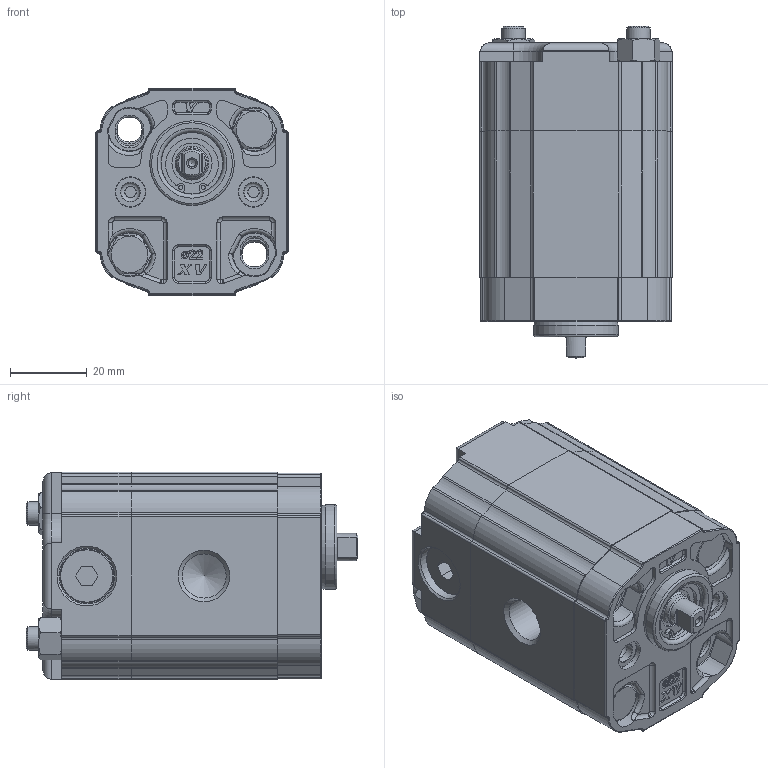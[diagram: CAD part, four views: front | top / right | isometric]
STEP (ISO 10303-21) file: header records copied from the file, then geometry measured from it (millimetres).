
FILE_DESCRIPTION(/* description */ ('Unknown'),/* implementation_level */ '2;1');
FILE_NAME(/* name */ 'X0R0921BBBF',/* time_stamp */ '2021-05-10T18:10:42+02:00',/* author */ ('Unknown'),/* organization */ ('Unknown'),/* preprocessor_version */ 'ST-DEVELOPER v16.7',/* originating_system */ 'Solid Edge',/* authorisation */ 'Unknown');
FILE_SCHEMA (('AUTOMOTIVE_DESIGN {1 0 10303 214 3 1 1}'));
Length unit declared in the file: millimetre
Products named in the file (5): X0R0921BBBF; X0R21; 0B; X0BBH38; XR017-F
Assembly tree (4 placements, depth 2):
  X0R0921BBBF
    X0R21
    0B
    X0BBH38
    XR017-F
Bounding box: 50 x 86.3 x 54 mm (x, y, z)
Volume: 160321 mm3; surface area: 39976.2 mm2
Topology: 4 solids, 9 shells, 813 faces, 2079 edges, 1319 vertices
Faces by surface type: plane 350, cylinder 289, cone 71, torus 69, bspline 30, sphere 4
Full cylindrical faces by diameter (mm): 1.053 x2, 2 x1, 5 x2, 6 x4, 6.01 x2, 6.5 x6, 7.16 x1, 7.5 x2, 7.9 x2, 7.92 x1, 8 x2, 8.1 x2, 8.566 x6, 9.318 x1, 10 x4, 10.445 x1, 11 x1, 11.445 x2, 14 x5, 14.5 x2, 16 x1, 16.2 x1, 16.8 x1, 22 x1
Entity records: 29928 total; most frequent: CARTESIAN_POINT 4876, DIRECTION 4145, ORIENTED_EDGE 3862, EDGE_CURVE 1931, AXIS2_PLACEMENT_3D 1563, VERTEX_POINT 1279, LINE 1019, VECTOR 1019
